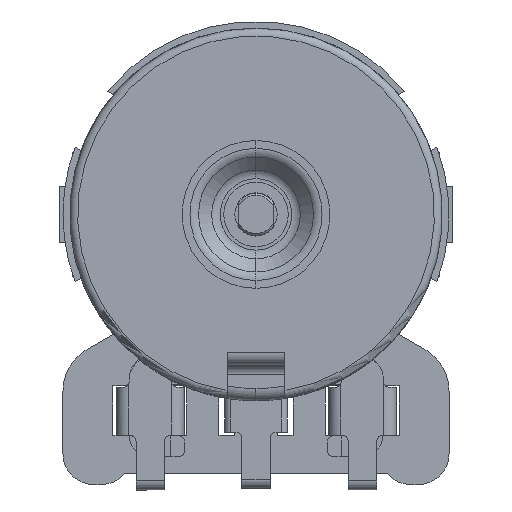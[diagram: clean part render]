
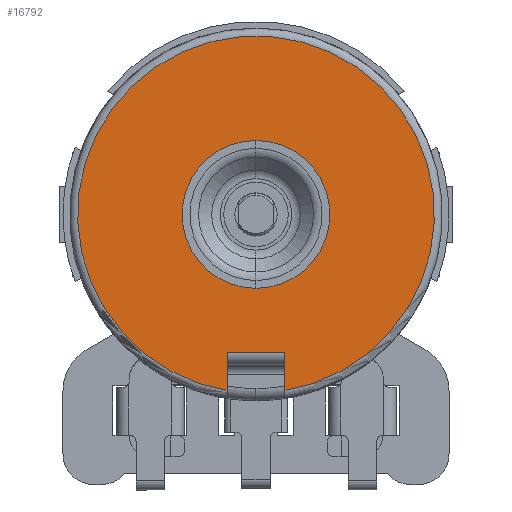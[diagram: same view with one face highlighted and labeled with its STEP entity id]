
A CAD part, front view. The second image highlights one B-rep face of the part: STEP entity #16792.
In plain terms, the highlighted planar face has unit normal (0, -1, 0).
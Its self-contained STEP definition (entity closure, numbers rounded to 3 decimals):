
#762 = CARTESIAN_POINT ( 'NONE',  ( 0., -0.194, 3.044 ) ) ;
#1220 = DIRECTION ( 'NONE',  ( 0., -1., 0. ) ) ;
#1640 = CARTESIAN_POINT ( 'NONE',  ( 0., -0.194, 0. ) ) ;
#2895 = VERTEX_POINT ( 'NONE', #16329 ) ;
#3786 = CARTESIAN_POINT ( 'NONE',  ( 0., -0.194, 0. ) ) ;
#4146 = EDGE_CURVE ( 'NONE', #4628, #2895, #16127, .T. ) ;
#4591 = LINE ( 'NONE', #17621, #17197 ) ;
#4628 = VERTEX_POINT ( 'NONE', #15502 ) ;
#5199 = VECTOR ( 'NONE', #10346, 1000. ) ;
#5262 = CARTESIAN_POINT ( 'NONE',  ( 1.194, -0.194, -5.695 ) ) ;
#6338 = ORIENTED_EDGE ( 'NONE', *, *, #12657, .T. ) ;
#7168 = EDGE_CURVE ( 'NONE', #7388, #14139, #10785, .T. ) ;
#7388 = VERTEX_POINT ( 'NONE', #20159 ) ;
#7643 = CIRCLE ( 'NONE', #15845, 3.044 ) ;
#7702 = AXIS2_PLACEMENT_3D ( 'NONE', #13701, #1220, #14320 ) ;
#8120 = DIRECTION ( 'NONE',  ( 0., -1., 0. ) ) ;
#8125 = EDGE_CURVE ( 'NONE', #17543, #2895, #8216, .T. ) ;
#8216 = LINE ( 'NONE', #9605, #16616 ) ;
#8531 = CARTESIAN_POINT ( 'NONE',  ( -3.044, -0.194, 0. ) ) ;
#9502 = DIRECTION ( 'NONE',  ( 0., 0., -1. ) ) ;
#9605 = CARTESIAN_POINT ( 'NONE',  ( -1.194, -0.194, -6.203 ) ) ;
#10144 = LINE ( 'NONE', #11839, #5199 ) ;
#10193 = DIRECTION ( 'NONE',  ( 0., -1., 0. ) ) ;
#10289 = DIRECTION ( 'NONE',  ( 0., 0., -1. ) ) ;
#10346 = DIRECTION ( 'NONE',  ( 0., 0., -1. ) ) ;
#10785 = CIRCLE ( 'NONE', #7702, 3.044 ) ;
#11302 = EDGE_CURVE ( 'NONE', #17164, #4628, #10144, .T. ) ;
#11718 = FACE_OUTER_BOUND ( 'NONE', #20494, .T. ) ;
#11839 = CARTESIAN_POINT ( 'NONE',  ( 1.194, -0.194, 0. ) ) ;
#12453 = CARTESIAN_POINT ( 'NONE',  ( -1.194, -0.194, -5.695 ) ) ;
#12657 = EDGE_CURVE ( 'NONE', #17543, #17164, #4591, .T. ) ;
#12809 = EDGE_CURVE ( 'NONE', #14139, #7388, #7643, .T. ) ;
#13701 = CARTESIAN_POINT ( 'NONE',  ( 0., -0.194, 0. ) ) ;
#13858 = ORIENTED_EDGE ( 'NONE', *, *, #8125, .F. ) ;
#14139 = VERTEX_POINT ( 'NONE', #762 ) ;
#14320 = DIRECTION ( 'NONE',  ( 0., 0., -1. ) ) ;
#14923 = EDGE_LOOP ( 'NONE', ( #19942, #19283 ) ) ;
#15146 = DIRECTION ( 'NONE',  ( 0., 1., 0. ) ) ;
#15502 = CARTESIAN_POINT ( 'NONE',  ( 1.194, -0.194, -7.249 ) ) ;
#15845 = AXIS2_PLACEMENT_3D ( 'NONE', #1640, #8120, #17935 ) ;
#16127 = CIRCLE ( 'NONE', #18152, 7.347 ) ;
#16329 = CARTESIAN_POINT ( 'NONE',  ( -1.194, -0.194, -7.249 ) ) ;
#16616 = VECTOR ( 'NONE', #9502, 1000. ) ;
#16792 = ADVANCED_FACE ( 'NONE', ( #20139, #11718 ), #18549, .F. ) ;
#17164 = VERTEX_POINT ( 'NONE', #5262 ) ;
#17197 = VECTOR ( 'NONE', #19211, 1000. ) ;
#17543 = VERTEX_POINT ( 'NONE', #12453 ) ;
#17621 = CARTESIAN_POINT ( 'NONE',  ( -3.044, -0.194, -5.695 ) ) ;
#17935 = DIRECTION ( 'NONE',  ( 0., 0., -1. ) ) ;
#18152 = AXIS2_PLACEMENT_3D ( 'NONE', #3786, #10193, #10289 ) ;
#18549 = PLANE ( 'NONE',  #19580 ) ;
#19167 = ORIENTED_EDGE ( 'NONE', *, *, #4146, .T. ) ;
#19211 = DIRECTION ( 'NONE',  ( 1., 0., 0. ) ) ;
#19283 = ORIENTED_EDGE ( 'NONE', *, *, #12809, .F. ) ;
#19507 = ORIENTED_EDGE ( 'NONE', *, *, #11302, .T. ) ;
#19580 = AXIS2_PLACEMENT_3D ( 'NONE', #8531, #15146, #19822 ) ;
#19822 = DIRECTION ( 'NONE',  ( 0., 0., 1. ) ) ;
#19942 = ORIENTED_EDGE ( 'NONE', *, *, #7168, .F. ) ;
#20139 = FACE_BOUND ( 'NONE', #14923, .T. ) ;
#20159 = CARTESIAN_POINT ( 'NONE',  ( 0., -0.194, -3.044 ) ) ;
#20494 = EDGE_LOOP ( 'NONE', ( #13858, #6338, #19507, #19167 ) ) ;
